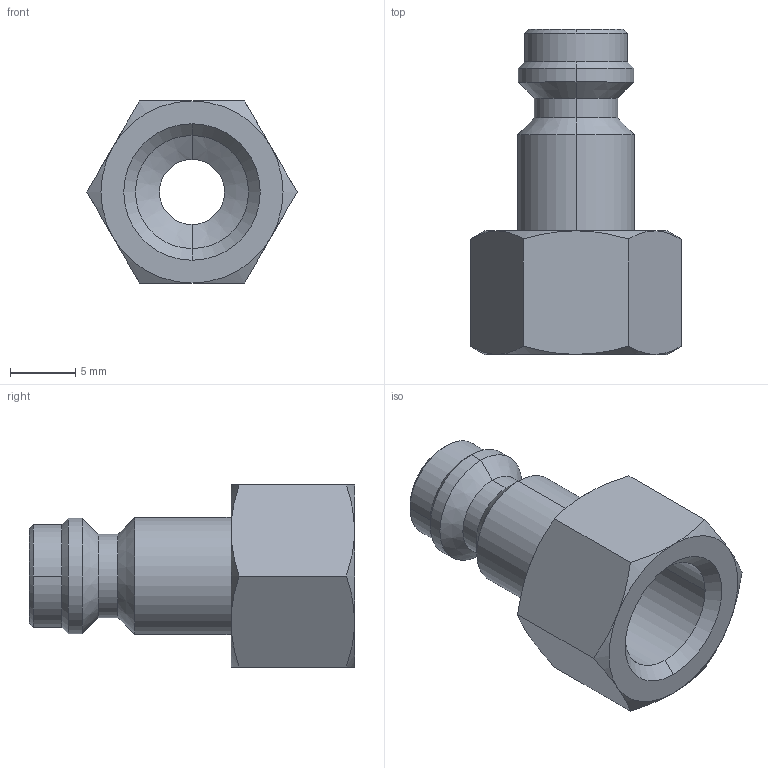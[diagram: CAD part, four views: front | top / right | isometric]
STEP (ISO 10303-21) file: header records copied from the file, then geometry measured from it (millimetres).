
FILE_DESCRIPTION (( 'STEP AP214' ), '1' );
FILE_NAME ('0021200010200A.STEP', '2012-11-19T17:15:34', ( '' ), ( '' ), 'SwSTEP 2.0', 'SolidWorks 2012', '' );
FILE_SCHEMA (( 'AUTOMOTIVE_DESIGN' ));
Length unit declared in the file: millimetre
Products named in the file (1): 0021200010200A
Bounding box: 16.17 x 25 x 14 mm (x, y, z)
Volume: 1638.6 mm3; surface area: 1618.3 mm2
Topology: 1 solids, 1 shells, 45 faces, 102 edges, 60 vertices
Faces by surface type: cone 24, cylinder 12, plane 9
Entity records: 1384 total; most frequent: CARTESIAN_POINT 328, DIRECTION 218, ORIENTED_EDGE 204, EDGE_CURVE 102, AXIS2_PLACEMENT_3D 94, VERTEX_POINT 60, EDGE_LOOP 48, CIRCLE 48
